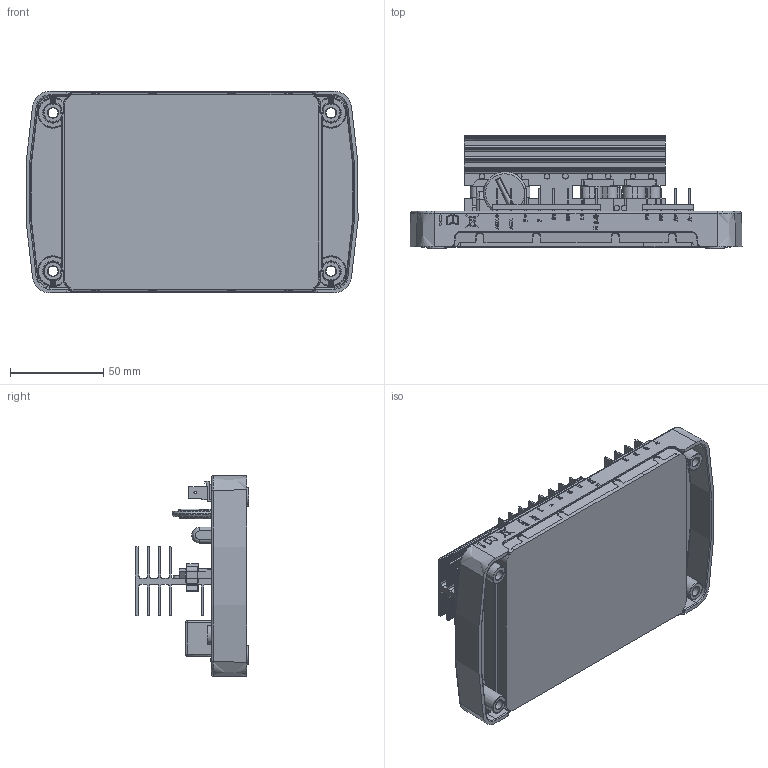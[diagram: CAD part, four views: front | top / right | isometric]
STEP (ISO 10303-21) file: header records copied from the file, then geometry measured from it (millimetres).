
FILE_DESCRIPTION (( 'STEP AP214' ), '1' );
FILE_NAME ('DSEA106 MIII.STEP', '2017-11-07T09:16:29', ( '' ), ( '' ), 'SwSTEP 2.0', 'SolidWorks 2017', '' );
FILE_SCHEMA (( 'AUTOMOTIVE_DESIGN' ));
Length unit declared in the file: millimetre
Products named in the file (1): DSEA106 MIII
Bounding box: 178.19 x 60.92 x 108.29 mm (x, y, z)
Volume: 313911.7 mm3; surface area: 116699.9 mm2
Topology: 1 solids, 1 shells, 3866 faces, 11596 edges, 7840 vertices
Faces by surface type: plane 2409, cylinder 1053, bspline 234, torus 85, sphere 43, cone 42
Full cylindrical faces by diameter (mm): 1.5 x12, 2.21 x2, 2.946 x5, 3 x28, 3.2 x1, 3.65 x2, 5 x1, 10 x2, 23.012 x1
Entity records: 163418 total; most frequent: CARTESIAN_POINT 60979, ORIENTED_EDGE 22912, DIRECTION 15980, EDGE_CURVE 11456, VERTEX_POINT 7806, VECTOR 6906, LINE 6906, AXIS2_PLACEMENT_3D 4537
